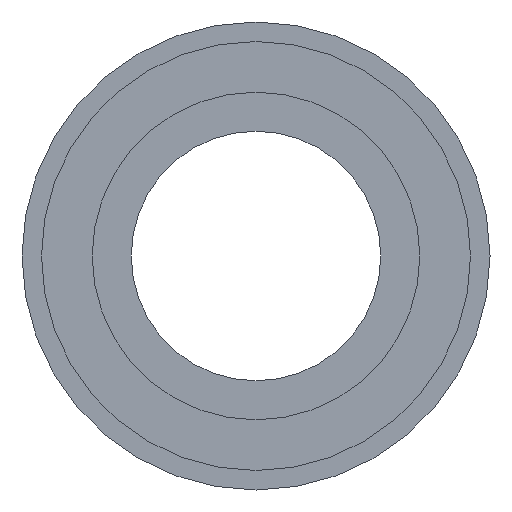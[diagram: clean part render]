
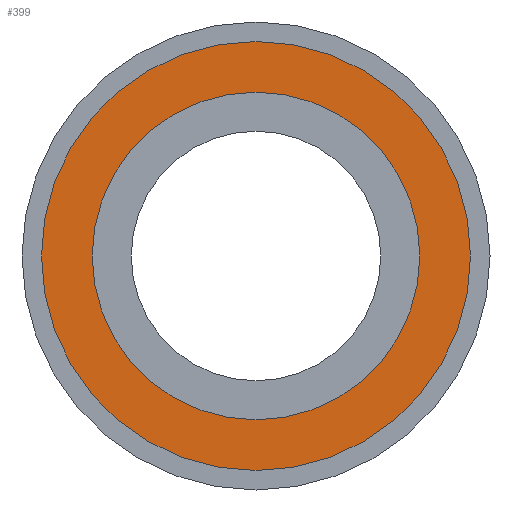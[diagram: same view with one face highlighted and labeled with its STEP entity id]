
A CAD part, front view. The second image highlights one B-rep face of the part: STEP entity #399.
In plain terms, the highlighted planar face has unit normal (0, -1, 0).
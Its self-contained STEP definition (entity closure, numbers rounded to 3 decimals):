
#13 = FACE_OUTER_BOUND ( 'NONE', #188, .T. ) ;
#44 = CARTESIAN_POINT ( 'NONE',  ( 0., 0., 0. ) ) ;
#54 = EDGE_CURVE ( 'NONE', #144, #72, #134, .T. ) ;
#67 = VERTEX_POINT ( 'NONE', #216 ) ;
#72 = VERTEX_POINT ( 'NONE', #100 ) ;
#74 = DIRECTION ( 'NONE',  ( 0., 0., 1. ) ) ;
#100 = CARTESIAN_POINT ( 'NONE',  ( 0., 0., 21. ) ) ;
#134 = CIRCLE ( 'NONE', #534, 21. ) ;
#135 = ORIENTED_EDGE ( 'NONE', *, *, #54, .T. ) ;
#144 = VERTEX_POINT ( 'NONE', #609 ) ;
#161 = CARTESIAN_POINT ( 'NONE',  ( 0., 0., 0. ) ) ;
#164 = CIRCLE ( 'NONE', #720, 21. ) ;
#174 = ORIENTED_EDGE ( 'NONE', *, *, #735, .F. ) ;
#188 = EDGE_LOOP ( 'NONE', ( #174, #686 ) ) ;
#215 = EDGE_CURVE ( 'NONE', #72, #144, #164, .T. ) ;
#216 = CARTESIAN_POINT ( 'NONE',  ( 0., 0., -27.5 ) ) ;
#244 = DIRECTION ( 'NONE',  ( 0., 0., 1. ) ) ;
#246 = EDGE_CURVE ( 'NONE', #67, #798, #525, .T. ) ;
#249 = CARTESIAN_POINT ( 'NONE',  ( 0., 0., 0. ) ) ;
#293 = PLANE ( 'NONE',  #567 ) ;
#309 = DIRECTION ( 'NONE',  ( 0., 0., 1. ) ) ;
#343 = FACE_BOUND ( 'NONE', #612, .T. ) ;
#391 = CARTESIAN_POINT ( 'NONE',  ( 0., 0., 0. ) ) ;
#396 = DIRECTION ( 'NONE',  ( 0., 1., 0. ) ) ;
#399 = ADVANCED_FACE ( 'NONE', ( #343, #13 ), #293, .T. ) ;
#445 = ORIENTED_EDGE ( 'NONE', *, *, #215, .T. ) ;
#475 = DIRECTION ( 'NONE',  ( 0., 1., 0. ) ) ;
#498 = AXIS2_PLACEMENT_3D ( 'NONE', #44, #560, #309 ) ;
#507 = CARTESIAN_POINT ( 'NONE',  ( 0., 0., 27.5 ) ) ;
#525 = CIRCLE ( 'NONE', #498, 27.5 ) ;
#534 = AXIS2_PLACEMENT_3D ( 'NONE', #161, #475, #676 ) ;
#539 = AXIS2_PLACEMENT_3D ( 'NONE', #391, #396, #74 ) ;
#549 = CARTESIAN_POINT ( 'NONE',  ( -21., 0., 0. ) ) ;
#560 = DIRECTION ( 'NONE',  ( 0., 1., 0. ) ) ;
#567 = AXIS2_PLACEMENT_3D ( 'NONE', #549, #793, #621 ) ;
#609 = CARTESIAN_POINT ( 'NONE',  ( 0., 0., -21. ) ) ;
#612 = EDGE_LOOP ( 'NONE', ( #445, #135 ) ) ;
#621 = DIRECTION ( 'NONE',  ( 0., 0., -1. ) ) ;
#676 = DIRECTION ( 'NONE',  ( 0., 0., 1. ) ) ;
#686 = ORIENTED_EDGE ( 'NONE', *, *, #246, .F. ) ;
#720 = AXIS2_PLACEMENT_3D ( 'NONE', #249, #803, #244 ) ;
#735 = EDGE_CURVE ( 'NONE', #798, #67, #740, .T. ) ;
#740 = CIRCLE ( 'NONE', #539, 27.5 ) ;
#793 = DIRECTION ( 'NONE',  ( 0., -1., 0. ) ) ;
#798 = VERTEX_POINT ( 'NONE', #507 ) ;
#803 = DIRECTION ( 'NONE',  ( 0., 1., 0. ) ) ;
